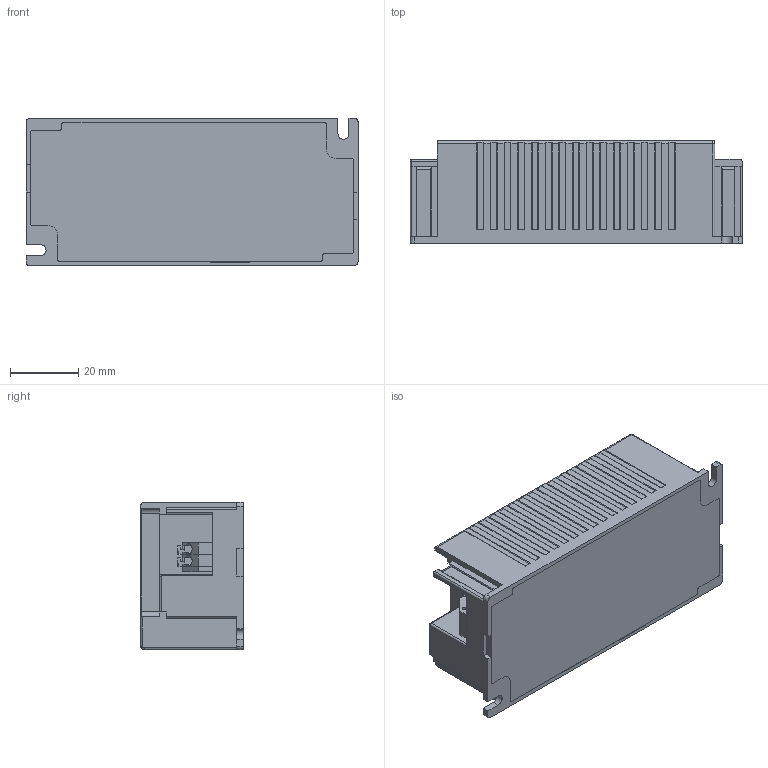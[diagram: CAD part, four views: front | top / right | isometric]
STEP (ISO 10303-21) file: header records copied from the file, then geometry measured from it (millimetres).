
FILE_DESCRIPTION((''),'2;1');
FILE_NAME('ZHUANGPEITU_ASM_61_ASM','2024-06-03T',('Arbiter.he'),(''),'CREO PARAMETRIC BY PTC INC, 2018220','CREO PARAMETRIC BY PTC INC, 2018220','');
FILE_SCHEMA(('CONFIG_CONTROL_DESIGN'));
Length unit declared in the file: millimetre
Products named in the file (9): SHANGGAI_169; 40W-PCB_6; DA250_P1-21489_1_A_1_1; DA250_P4-19812_1_A_1_1; BOTTOM-1120_4; DA250_P2-14081_1_A_1_1; DA250-350-3P_ASM_1_ASM_A_ASM_2__ASM; BOMA-3; ZHUANGPEITU_ASM_61_ASM
Assembly tree (11 placements, depth 2):
  ZHUANGPEITU_ASM_61_ASM
    SHANGGAI_169
    40W-PCB_6
    DA250_P1-21489_1_A_1_1  x3
    DA250_P4-19812_1_A_1_1  x2
    BOTTOM-1120_4
    DA250_P2-14081_1_A_1_1
    DA250-350-3P_ASM_1_ASM_A_ASM_2__ASM
    BOMA-3
Bounding box: 97 x 30 x 43 mm (x, y, z)
Volume: 26447.3 mm3; surface area: 45194.9 mm2
Topology: 10 solids, 10 shells, 966 faces, 2839 edges, 1956 vertices
Faces by surface type: plane 626, cylinder 278, extrusion 50, torus 6, cone 2, sphere 2, bspline 2
Entity records: 34593 total; most frequent: CARTESIAN_POINT 7392, ORIENTED_EDGE 4494, DIRECTION 4091, EDGE_CURVE 2247, PRESENTATION_STYLE_ASSIGNMENT 1837, STYLED_ITEM 1837, CURVE_STYLE 1662, VECTOR 1623
